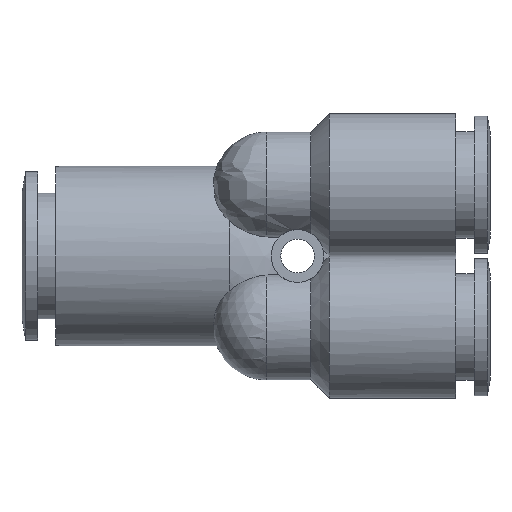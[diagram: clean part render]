
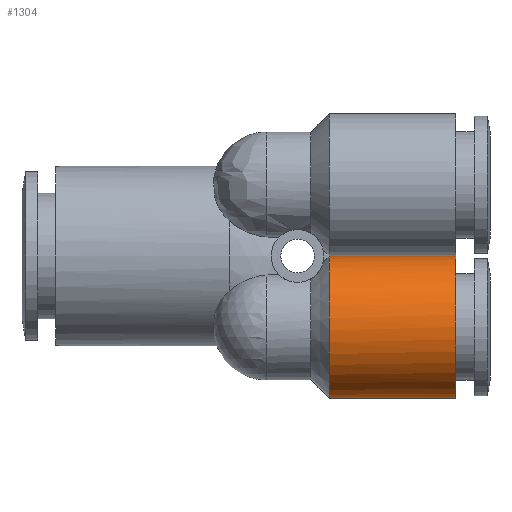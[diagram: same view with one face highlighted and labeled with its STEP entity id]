
A CAD part, left-side view. The second image highlights one B-rep face of the part: STEP entity #1304.
In plain terms, the highlighted cylindrical face has radius 6.75 mm (diameter 13.5 mm), a partial arc.
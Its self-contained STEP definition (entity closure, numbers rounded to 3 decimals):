
#745=CARTESIAN_POINT('',(-6.75,-1.,0.));
#746=VERTEX_POINT('',#745);
#1265=CARTESIAN_POINT('',(-6.75,-7.,-6.75));
#1266=DIRECTION('',(0.,-1.0,0.0));
#1267=DIRECTION('',(-1.0,0.0,0.0));
#1268=AXIS2_PLACEMENT_3D('',#1265,#1266,#1267);
#1269=CYLINDRICAL_SURFACE('',#1268,6.75);
#1270=CARTESIAN_POINT('',(0.,-1.,-6.75));
#1271=VERTEX_POINT('',#1270);
#1272=CARTESIAN_POINT('',(0.,-13.,-6.75));
#1273=VERTEX_POINT('',#1272);
#1274=CARTESIAN_POINT('',(0.,-1.,-6.75));
#1275=DIRECTION('',(0.0,-1.0,0.0));
#1276=VECTOR('',#1275,12.);
#1277=LINE('',#1274,#1276);
#1278=EDGE_CURVE('',#1271,#1273,#1277,.T.);
#1279=ORIENTED_EDGE('',*,*,#1278,.T.);
#1280=CARTESIAN_POINT('',(-6.75,-13.,0.));
#1281=VERTEX_POINT('',#1280);
#1282=CARTESIAN_POINT('',(-6.75,-13.,-6.75));
#1283=DIRECTION('',(0.0,-1.0,0.0));
#1284=DIRECTION('',(-1.0,0.0,0.0));
#1285=AXIS2_PLACEMENT_3D('',#1282,#1283,#1284);
#1286=CIRCLE('',#1285,6.75);
#1287=EDGE_CURVE('',#1281,#1273,#1286,.T.);
#1288=ORIENTED_EDGE('',*,*,#1287,.F.);
#1289=CARTESIAN_POINT('',(-6.75,-1.,0.));
#1290=DIRECTION('',(0.0,-1.0,0.0));
#1291=VECTOR('',#1290,12.);
#1292=LINE('',#1289,#1291);
#1293=EDGE_CURVE('',#746,#1281,#1292,.T.);
#1294=ORIENTED_EDGE('',*,*,#1293,.F.);
#1295=CARTESIAN_POINT('',(-6.75,-1.,-6.75));
#1296=DIRECTION('',(0.0,-1.0,0.0));
#1297=DIRECTION('',(-1.0,0.0,0.0));
#1298=AXIS2_PLACEMENT_3D('',#1295,#1296,#1297);
#1299=CIRCLE('',#1298,6.75);
#1300=EDGE_CURVE('',#746,#1271,#1299,.T.);
#1301=ORIENTED_EDGE('',*,*,#1300,.T.);
#1302=EDGE_LOOP('',(#1279,#1288,#1294,#1301));
#1303=FACE_OUTER_BOUND('',#1302,.T.);
#1304=ADVANCED_FACE('',(#1303),#1269,.T.);
